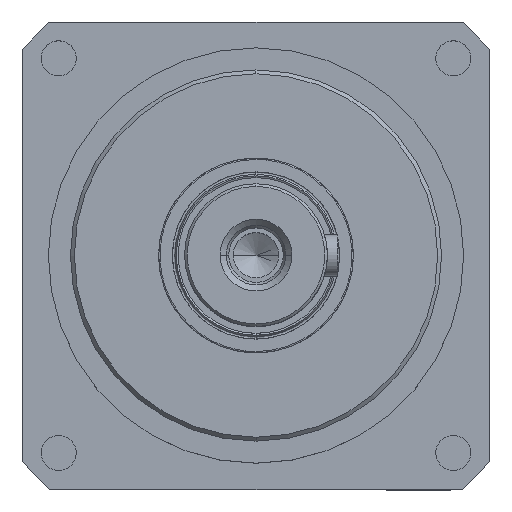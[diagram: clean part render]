
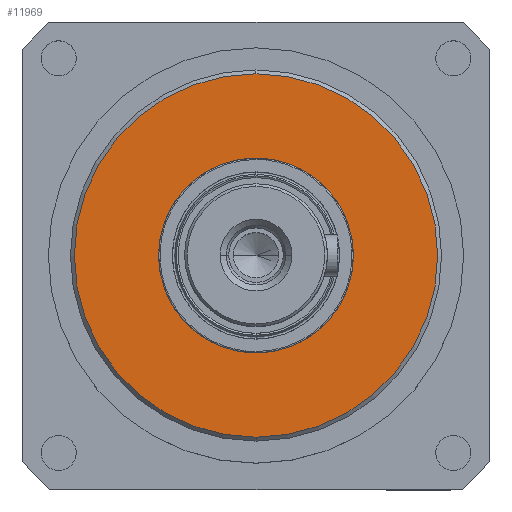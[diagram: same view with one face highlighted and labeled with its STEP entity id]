
A CAD part, top view. The second image highlights one B-rep face of the part: STEP entity #11969.
In plain terms, the highlighted planar face has unit normal (0, 0, 1).
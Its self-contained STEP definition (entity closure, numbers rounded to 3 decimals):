
#81 = CARTESIAN_POINT ( 'NONE',  ( 0., 70., 0. ) ) ;
#656 = DIRECTION ( 'NONE',  ( 1., 0., 0. ) ) ;
#1408 = AXIS2_PLACEMENT_3D ( 'NONE', #2703, #13277, #6283 ) ;
#1483 = FACE_OUTER_BOUND ( 'NONE', #1984, .T. ) ;
#1886 = EDGE_CURVE ( 'NONE', #7188, #8346, #14974, .T. ) ;
#1984 = EDGE_LOOP ( 'NONE', ( #12615, #5353 ) ) ;
#2295 = AXIS2_PLACEMENT_3D ( 'NONE', #9964, #2973, #656 ) ;
#2306 = DIRECTION ( 'NONE',  ( -1., 0., 0. ) ) ;
#2703 = CARTESIAN_POINT ( 'NONE',  ( 0., 0., 0. ) ) ;
#2973 = DIRECTION ( 'NONE',  ( 0., 0., 1. ) ) ;
#3247 = CARTESIAN_POINT ( 'NONE',  ( 0., 70., 0. ) ) ;
#3249 = VERTEX_POINT ( 'NONE', #9984 ) ;
#3437 = VERTEX_POINT ( 'NONE', #3247 ) ;
#3565 = DIRECTION ( 'NONE',  ( 0., 0., 1. ) ) ;
#3741 = CARTESIAN_POINT ( 'NONE',  ( 37.5, 0., 0. ) ) ;
#4752 = DIRECTION ( 'NONE',  ( 0., 0., -1. ) ) ;
#5318 = FACE_BOUND ( 'NONE', #12961, .T. ) ;
#5353 = ORIENTED_EDGE ( 'NONE', *, *, #11175, .F. ) ;
#5414 = DIRECTION ( 'NONE',  ( 0., 1., 0. ) ) ;
#5887 = PLANE ( 'NONE',  #9907 ) ;
#6283 = DIRECTION ( 'NONE',  ( 0., 1., 0. ) ) ;
#7188 = VERTEX_POINT ( 'NONE', #3741 ) ;
#7511 = CIRCLE ( 'NONE', #1408, 70. ) ;
#8346 = VERTEX_POINT ( 'NONE', #9441 ) ;
#8648 = EDGE_CURVE ( 'NONE', #3437, #3249, #13222, .T. ) ;
#9441 = CARTESIAN_POINT ( 'NONE',  ( -37.5, 0., 0. ) ) ;
#9907 = AXIS2_PLACEMENT_3D ( 'NONE', #81, #4752, #2306 ) ;
#9964 = CARTESIAN_POINT ( 'NONE',  ( 0., 0., 0. ) ) ;
#9984 = CARTESIAN_POINT ( 'NONE',  ( 0., -70., 0. ) ) ;
#10053 = AXIS2_PLACEMENT_3D ( 'NONE', #10146, #13488, #5414 ) ;
#10146 = CARTESIAN_POINT ( 'NONE',  ( 0., 0., 0. ) ) ;
#10408 = ORIENTED_EDGE ( 'NONE', *, *, #1886, .F. ) ;
#10465 = DIRECTION ( 'NONE',  ( 1., 0., 0. ) ) ;
#11175 = EDGE_CURVE ( 'NONE', #3249, #3437, #7511, .T. ) ;
#11618 = CARTESIAN_POINT ( 'NONE',  ( 0., 0., 0. ) ) ;
#11665 = EDGE_CURVE ( 'NONE', #8346, #7188, #11877, .T. ) ;
#11782 = AXIS2_PLACEMENT_3D ( 'NONE', #11618, #3565, #10465 ) ;
#11877 = CIRCLE ( 'NONE', #2295, 37.5 ) ;
#11969 = ADVANCED_FACE ( 'b?', ( #1483, #5318 ), #5887, .F. ) ;
#12615 = ORIENTED_EDGE ( 'NONE', *, *, #8648, .F. ) ;
#12961 = EDGE_LOOP ( 'NONE', ( #10408, #14820 ) ) ;
#13222 = CIRCLE ( 'NONE', #10053, 70. ) ;
#13277 = DIRECTION ( 'NONE',  ( 0., 0., -1. ) ) ;
#13488 = DIRECTION ( 'NONE',  ( 0., 0., -1. ) ) ;
#14820 = ORIENTED_EDGE ( 'NONE', *, *, #11665, .F. ) ;
#14974 = CIRCLE ( 'NONE', #11782, 37.5 ) ;
